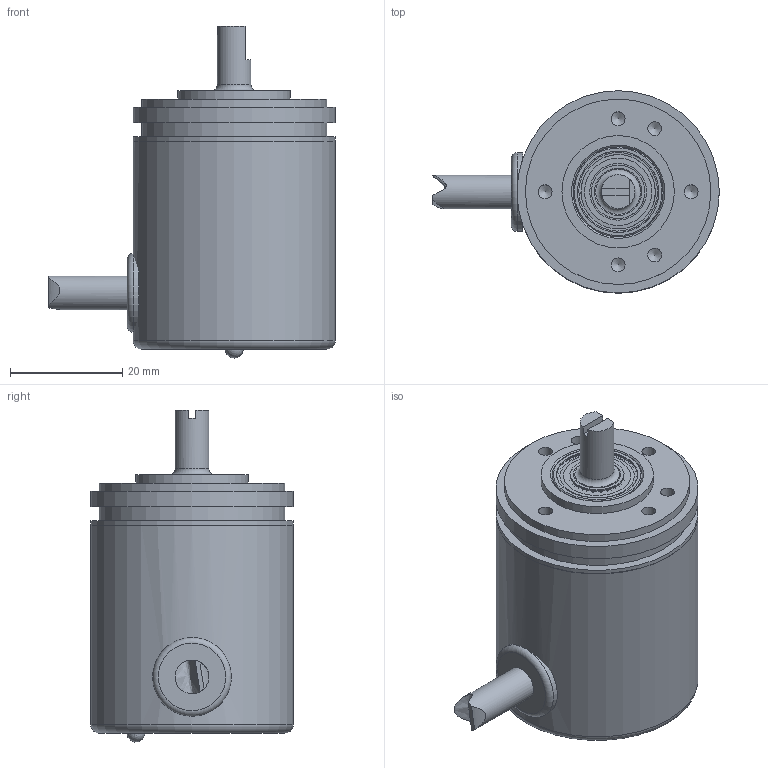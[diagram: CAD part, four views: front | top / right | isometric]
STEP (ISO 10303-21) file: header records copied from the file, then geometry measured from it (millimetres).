
FILE_DESCRIPTION (( 'STEP AP203' ), '1' );
FILE_NAME ('HTx36E S_radial.STEP', '2021-06-09T16:52:06', ( '' ), ( '' ), 'SwSTEP 2.0', 'SolidWorks 2019', '' );
FILE_SCHEMA (( 'CONFIG_CONTROL_DESIGN' ));
Length unit declared in the file: millimetre
Products named in the file (1): HTx36E S_radial
Bounding box: 51 x 36 x 59.09 mm (x, y, z)
Volume: 17947.1 mm3; surface area: 21904.6 mm2
Topology: 33 solids, 33 shells, 211 faces, 438 edges, 270 vertices
Faces by surface type: cylinder 70, plane 53, cone 35, torus 30, sphere 19, bspline 4
Full cylindrical faces by diameter (mm): 2.459 x6, 2.5 x1, 2.6 x1, 6 x3, 7.6 x1, 8 x6, 8.1 x1, 9.5 x8, 10 x3, 10.1 x4, 13.5 x1, 14 x6, 14.5 x8, 15.85 x1, 16 x6, 20 x1, 31.6 x1, 32 x1, 33 x2, 33.2 x1, 34 x3, 36 x3
Entity records: 6314 total; most frequent: CARTESIAN_POINT 2873, DIRECTION 763, ORIENTED_EDGE 416, AXIS2_PLACEMENT_3D 372, EDGE_LOOP 354, FACE_OUTER_BOUND 277, EDGE_CURVE 208, ADVANCED_FACE 203
